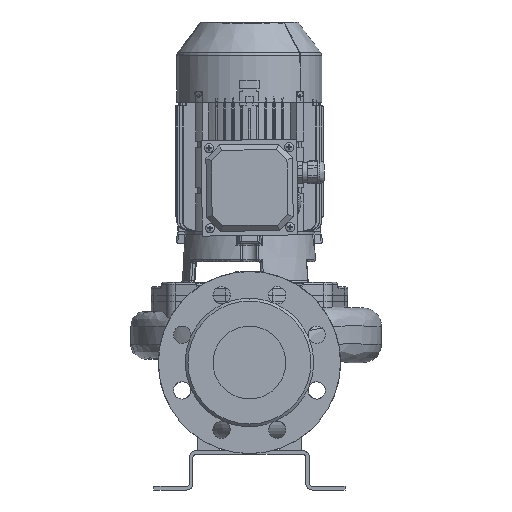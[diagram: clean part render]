
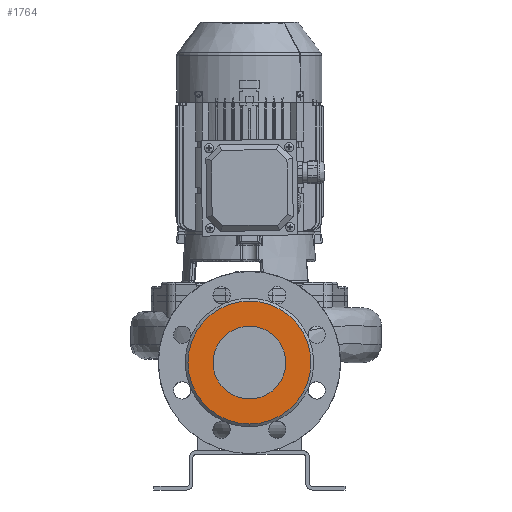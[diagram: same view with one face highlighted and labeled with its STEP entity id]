
A CAD part, front view. The second image highlights one B-rep face of the part: STEP entity #1764.
In plain terms, the highlighted planar face has unit normal (0, -1, 0) as drawn and (0, 1, 0) by its records, which use the part's own axes.
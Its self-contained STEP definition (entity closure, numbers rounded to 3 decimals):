
#1764=ADVANCED_FACE('',(#3543,#3544),#3545,.T.);
#1768=EDGE_CURVE('',#3550,#3551,#3552,.T.);
#1828=EDGE_CURVE('',#3660,#3661,#3662,.T.);
#2026=EDGE_CURVE('',#3661,#3660,#3961,.T.);
#2098=EDGE_CURVE('',#3551,#3550,#4039,.T.);
#3543=FACE_BOUND('',#10997,.T.);
#3544=FACE_OUTER_BOUND('',#10998,.T.);
#3545=PLANE('',#10999);
#3550=VERTEX_POINT('',#11204);
#3551=VERTEX_POINT('',#11205);
#3552=CIRCLE('',#11206,67.5);
#3660=VERTEX_POINT('',#11362);
#3661=VERTEX_POINT('',#11363);
#3662=CIRCLE('',#11364,40.0);
#3961=CIRCLE('',#11803,40.0);
#4039=CIRCLE('',#11936,67.5);
#10997=EDGE_LOOP('',(#20114,#20115));
#10998=EDGE_LOOP('',(#20116,#20117));
#10999=AXIS2_PLACEMENT_3D('',#20118,#20119,#20120);
#11204=CARTESIAN_POINT('',(0.,223.0,-97.5));
#11205=CARTESIAN_POINT('',(0.,223.0,37.5));
#11206=AXIS2_PLACEMENT_3D('',#20134,#20135,#20136);
#11362=CARTESIAN_POINT('',(14.674,223.0,-67.211));
#11363=CARTESIAN_POINT('',(-14.674,223.0,7.211));
#11364=AXIS2_PLACEMENT_3D('',#20219,#20220,#20221);
#11803=AXIS2_PLACEMENT_3D('',#20498,#20499,#20500);
#11936=AXIS2_PLACEMENT_3D('',#20601,#20602,#20603);
#20114=ORIENTED_EDGE('',*,*,#1828,.T.);
#20115=ORIENTED_EDGE('',*,*,#2026,.T.);
#20116=ORIENTED_EDGE('',*,*,#1768,.F.);
#20117=ORIENTED_EDGE('',*,*,#2098,.F.);
#20118=CARTESIAN_POINT('',(42.898,223.0,-4.315));
#20119=DIRECTION('',(0.0,1.0,0.0));
#20120=DIRECTION('',(0.0,0.0,1.0));
#20134=CARTESIAN_POINT('',(0.,223.0,-30.0));
#20135=DIRECTION('',(0.0,-1.0,0.0));
#20136=DIRECTION('',(0.,0.0,-1.0));
#20219=CARTESIAN_POINT('',(0.0,223.0,-30.0));
#20220=DIRECTION('',(0.0,-1.0,0.0));
#20221=DIRECTION('',(0.367,0.0,-0.93));
#20498=CARTESIAN_POINT('',(0.0,223.0,-30.0));
#20499=DIRECTION('',(0.0,-1.0,0.0));
#20500=DIRECTION('',(0.367,0.0,-0.93));
#20601=CARTESIAN_POINT('',(0.,223.0,-30.0));
#20602=DIRECTION('',(0.0,-1.0,0.0));
#20603=DIRECTION('',(0.,0.0,-1.0));
